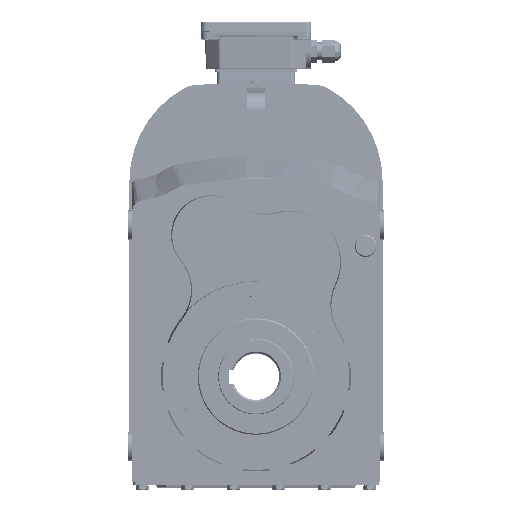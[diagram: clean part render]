
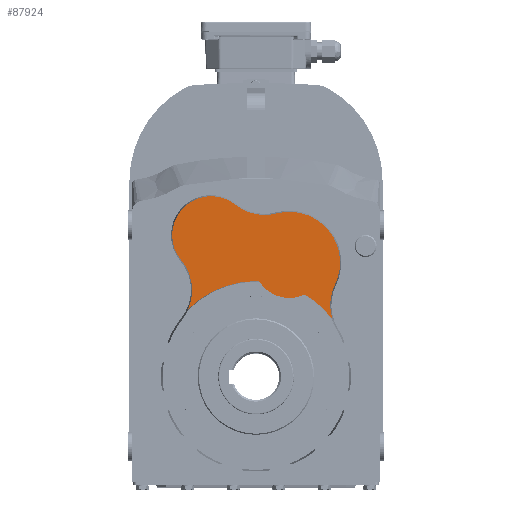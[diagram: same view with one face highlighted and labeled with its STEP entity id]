
A CAD part, top view. The second image highlights one B-rep face of the part: STEP entity #87924.
In plain terms, the highlighted planar face has unit normal (0, 0, 1).
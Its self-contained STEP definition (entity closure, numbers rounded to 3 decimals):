
#1063 = VERTEX_POINT ( 'NONE', #49623 ) ;
#14090 = VERTEX_POINT ( 'NONE', #49792 ) ;
#14092 = VERTEX_POINT ( 'NONE', #49793 ) ;
#14121 = VERTEX_POINT ( 'NONE', #47562 ) ;
#14202 = VERTEX_POINT ( 'NONE', #47742 ) ;
#14204 = VERTEX_POINT ( 'NONE', #47663 ) ;
#14206 = VERTEX_POINT ( 'NONE', #47534 ) ;
#14215 = VERTEX_POINT ( 'NONE', #47614 ) ;
#17837 = EDGE_LOOP ( 'NONE', ( #102955, #102873, #102988, #102985, #100426, #102976, #100418, #102944, #102903, #102906, #102909, #102861 ) ) ;
#46837 = CIRCLE ( 'NONE', #172943, 39.519 ) ;
#46949 = CIRCLE ( 'NONE', #172867, 81.925 ) ;
#46957 = CIRCLE ( 'NONE', #172888, 39.519 ) ;
#47185 = CIRCLE ( 'NONE', #173004, 33.481 ) ;
#47534 = CARTESIAN_POINT ( 'NONE',  ( 7.331, 138.6, 170.5 ) ) ;
#47562 = CARTESIAN_POINT ( 'NONE',  ( -54.762, 74.237, 170.5 ) ) ;
#47614 = CARTESIAN_POINT ( 'NONE',  ( 0., 81.925, 170.5 ) ) ;
#47663 = CARTESIAN_POINT ( 'NONE',  ( -71.903, 121.236, 170.5 ) ) ;
#47742 = CARTESIAN_POINT ( 'NONE',  ( 17.473, 139.924, 170.5 ) ) ;
#49623 = CARTESIAN_POINT ( 'NONE',  ( -17.438, 147.325, 170.5 ) ) ;
#49792 = CARTESIAN_POINT ( 'NONE',  ( -64.041, 99.68, 170.5 ) ) ;
#49793 = CARTESIAN_POINT ( 'NONE',  ( -58.597, 57.254, 170.5 ) ) ;
#51968 = DIRECTION ( 'NONE',  ( 0., 0., -1. ) ) ;
#51970 = CARTESIAN_POINT ( 'NONE',  ( 7.331, 178.119, 170.5 ) ) ;
#51972 = DIRECTION ( 'NONE',  ( 0., -1., 0. ) ) ;
#52018 = DIRECTION ( 'NONE',  ( 0., 1., 0. ) ) ;
#52024 = CARTESIAN_POINT ( 'NONE',  ( 0., 0., 170.5 ) ) ;
#52041 = DIRECTION ( 'NONE',  ( 0., 0., 1. ) ) ;
#56183 = DIRECTION ( 'NONE',  ( 1., 0., 0. ) ) ;
#56237 = DIRECTION ( 'NONE',  ( 0., 0., -1. ) ) ;
#56321 = CARTESIAN_POINT ( 'NONE',  ( -94.281, 74.237, 170.5 ) ) ;
#57088 = CARTESIAN_POINT ( 'NONE',  ( -38.422, 121.236, 170.5 ) ) ;
#57197 = DIRECTION ( 'NONE',  ( -1., 0., 0. ) ) ;
#57218 = DIRECTION ( 'NONE',  ( 0., 0., 1. ) ) ;
#62914 = AXIS2_PLACEMENT_3D ( 'NONE', #65804, #65817, #65881 ) ;
#65804 = CARTESIAN_POINT ( 'NONE',  ( 17.982, 138.009, 170.5 ) ) ;
#65817 = DIRECTION ( 'NONE',  ( 0., 0., 1. ) ) ;
#65830 = PLANE ( 'NONE',  #62914 ) ;
#65881 = DIRECTION ( 'NONE',  ( 1., 0., 0. ) ) ;
#70555 = FACE_OUTER_BOUND ( 'NONE', #17837, .T. ) ;
#78084 = CARTESIAN_POINT ( 'NONE',  ( 2.677, 81.881, 170.5 ) ) ;
#78126 = CARTESIAN_POINT ( 'NONE',  ( 41.866, 70.419, 170.5 ) ) ;
#78145 = CARTESIAN_POINT ( 'NONE',  ( 67.666, 78.742, 170.5 ) ) ;
#78150 = CARTESIAN_POINT ( 'NONE',  ( 65.552, 49.138, 170.5 ) ) ;
#87924 = ADVANCED_FACE ( 'NONE', ( #70555 ), #65830, .T. ) ;
#100418 = ORIENTED_EDGE ( 'NONE', *, *, #124685, .T. ) ;
#100426 = ORIENTED_EDGE ( 'NONE', *, *, #124556, .T. ) ;
#102861 = ORIENTED_EDGE ( 'NONE', *, *, #185158, .T. ) ;
#102873 = ORIENTED_EDGE ( 'NONE', *, *, #124689, .T. ) ;
#102903 = ORIENTED_EDGE ( 'NONE', *, *, #184953, .T. ) ;
#102906 = ORIENTED_EDGE ( 'NONE', *, *, #124443, .T. ) ;
#102909 = ORIENTED_EDGE ( 'NONE', *, *, #124508, .T. ) ;
#102944 = ORIENTED_EDGE ( 'NONE', *, *, #124501, .T. ) ;
#102955 = ORIENTED_EDGE ( 'NONE', *, *, #185021, .T. ) ;
#102976 = ORIENTED_EDGE ( 'NONE', *, *, #124503, .F. ) ;
#102985 = ORIENTED_EDGE ( 'NONE', *, *, #124549, .F. ) ;
#102988 = ORIENTED_EDGE ( 'NONE', *, *, #184967, .F. ) ;
#112196 = VERTEX_POINT ( 'NONE', #78126 ) ;
#112246 = VERTEX_POINT ( 'NONE', #78084 ) ;
#112360 = VERTEX_POINT ( 'NONE', #78145 ) ;
#112404 = VERTEX_POINT ( 'NONE', #78150 ) ;
#124443 = EDGE_CURVE ( 'NONE', #14206, #1063, #162382, .T. ) ;
#124501 = EDGE_CURVE ( 'NONE', #112360, #14202, #162519, .T. ) ;
#124503 = EDGE_CURVE ( 'NONE', #112404, #112196, #162536, .T. ) ;
#124508 = EDGE_CURVE ( 'NONE', #1063, #14204, #162532, .T. ) ;
#124549 = EDGE_CURVE ( 'NONE', #112246, #14215, #162530, .T. ) ;
#124556 = EDGE_CURVE ( 'NONE', #112246, #112196, #162555, .T. ) ;
#124685 = EDGE_CURVE ( 'NONE', #112404, #112360, #162765, .T. ) ;
#124689 = EDGE_CURVE ( 'NONE', #14121, #14092, #162756, .T. ) ;
#139342 = AXIS2_PLACEMENT_3D ( 'NONE', #158033, #158018, #158020 ) ;
#139583 = AXIS2_PLACEMENT_3D ( 'NONE', #164117, #164041, #164100 ) ;
#139589 = AXIS2_PLACEMENT_3D ( 'NONE', #165696, #165675, #165653 ) ;
#139592 = AXIS2_PLACEMENT_3D ( 'NONE', #165599, #165678, #165593 ) ;
#139605 = AXIS2_PLACEMENT_3D ( 'NONE', #158202, #158140, #158189 ) ;
#139633 = AXIS2_PLACEMENT_3D ( 'NONE', #158298, #158243, #158220 ) ;
#139639 = AXIS2_PLACEMENT_3D ( 'NONE', #158182, #158130, #158142 ) ;
#139671 = AXIS2_PLACEMENT_3D ( 'NONE', #164044, #164073, #164070 ) ;
#158018 = DIRECTION ( 'NONE',  ( 0., 0., -1. ) ) ;
#158020 = DIRECTION ( 'NONE',  ( 0., -1., 0. ) ) ;
#158033 = CARTESIAN_POINT ( 'NONE',  ( 7.331, 178.119, 170.5 ) ) ;
#158130 = DIRECTION ( 'NONE',  ( 0., 0., 1. ) ) ;
#158140 = DIRECTION ( 'NONE',  ( 0., 0., 1. ) ) ;
#158142 = DIRECTION ( 'NONE',  ( 0., 1., 0. ) ) ;
#158182 = CARTESIAN_POINT ( 'NONE',  ( 0., 0., 170.5 ) ) ;
#158189 = DIRECTION ( 'NONE',  ( -1., 0., 0. ) ) ;
#158202 = CARTESIAN_POINT ( 'NONE',  ( 28.633, 97.899, 170.5 ) ) ;
#158220 = DIRECTION ( 'NONE',  ( -1., 0., 0. ) ) ;
#158243 = DIRECTION ( 'NONE',  ( 0., 0., 1. ) ) ;
#158298 = CARTESIAN_POINT ( 'NONE',  ( -38.422, 121.236, 170.5 ) ) ;
#162382 = CIRCLE ( 'NONE', #139342, 39.519 ) ;
#162519 = CIRCLE ( 'NONE', #139605, 43.481 ) ;
#162530 = CIRCLE ( 'NONE', #139589, 81.925 ) ;
#162532 = CIRCLE ( 'NONE', #139633, 33.481 ) ;
#162536 = CIRCLE ( 'NONE', #139639, 81.925 ) ;
#162555 = CIRCLE ( 'NONE', #139592, 30.5 ) ;
#162756 = CIRCLE ( 'NONE', #139671, 39.519 ) ;
#162765 = CIRCLE ( 'NONE', #139583, 39.519 ) ;
#164041 = DIRECTION ( 'NONE',  ( 0., 0., -1. ) ) ;
#164044 = CARTESIAN_POINT ( 'NONE',  ( -94.281, 74.237, 170.5 ) ) ;
#164070 = DIRECTION ( 'NONE',  ( 1., 0., 0. ) ) ;
#164073 = DIRECTION ( 'NONE',  ( 0., 0., -1. ) ) ;
#164100 = DIRECTION ( 'NONE',  ( 1., 0., 0. ) ) ;
#164117 = CARTESIAN_POINT ( 'NONE',  ( 103.143, 61.331, 170.5 ) ) ;
#165593 = DIRECTION ( 'NONE',  ( -1., 0., 0. ) ) ;
#165599 = CARTESIAN_POINT ( 'NONE',  ( 28.633, 97.899, 170.5 ) ) ;
#165653 = DIRECTION ( 'NONE',  ( 0., 1., 0. ) ) ;
#165675 = DIRECTION ( 'NONE',  ( 0., 0., 1. ) ) ;
#165678 = DIRECTION ( 'NONE',  ( 0., 0., 1. ) ) ;
#165696 = CARTESIAN_POINT ( 'NONE',  ( 0., 0., 170.5 ) ) ;
#172867 = AXIS2_PLACEMENT_3D ( 'NONE', #52024, #52041, #52018 ) ;
#172888 = AXIS2_PLACEMENT_3D ( 'NONE', #56321, #56237, #56183 ) ;
#172943 = AXIS2_PLACEMENT_3D ( 'NONE', #51970, #51968, #51972 ) ;
#173004 = AXIS2_PLACEMENT_3D ( 'NONE', #57088, #57218, #57197 ) ;
#184953 = EDGE_CURVE ( 'NONE', #14202, #14206, #46837, .T. ) ;
#184967 = EDGE_CURVE ( 'NONE', #14215, #14092, #46949, .T. ) ;
#185021 = EDGE_CURVE ( 'NONE', #14090, #14121, #46957, .T. ) ;
#185158 = EDGE_CURVE ( 'NONE', #14204, #14090, #47185, .T. ) ;
